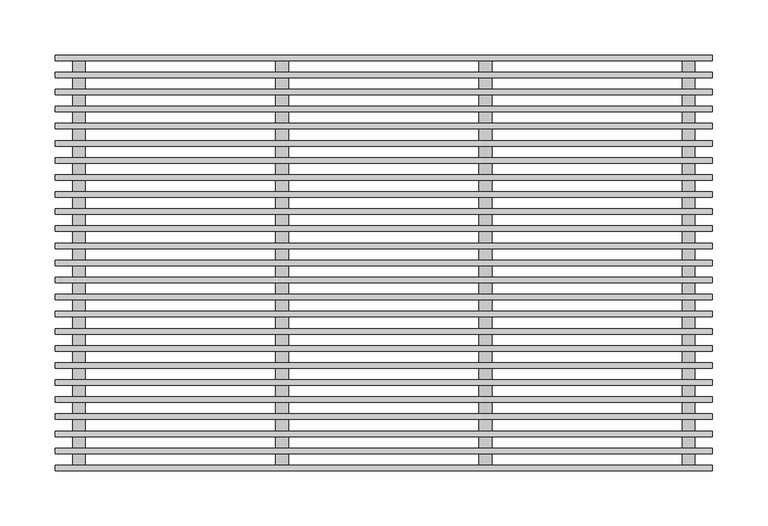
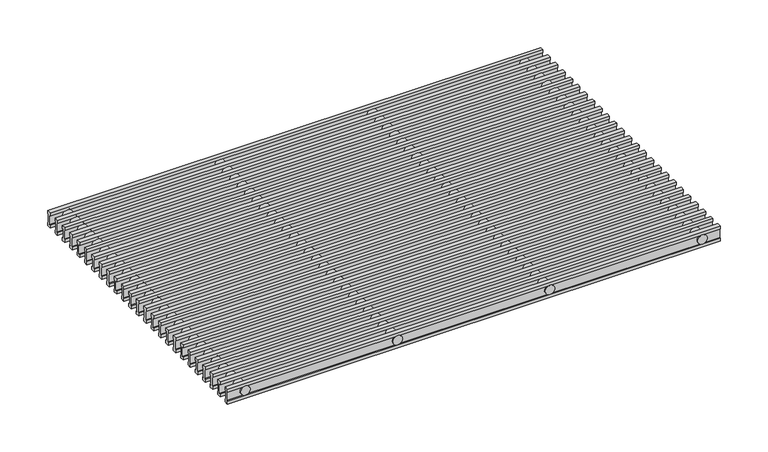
"""IFC4 building model written with IfcOpenShell, lengths in millimetres: proxy geometry, ♦ : РАП_Алюминиевая продольная/ Белый RAL 9016."""

from ifc_helpers import new_model, si_unit, point, frame, frame_2d, origin, place, context, project, spatial, polyline, circle_curve, trimmed, segment, composite_curve, outline, extrude, source, transform, mapped, element, save


def mechanical_equipment_6586b256(model_context):
    return source(origin(), model_context, "Body", "SweptSolid", [
        extrude(outline(polyline([(-168.275, 0.0), (-168.275, -3.86), (-169.525, -3.86), (-169.525, -15.44), (-168.275, -15.44), (-168.275, -19.3), (-173.275, -19.3), (-173.275, -15.44), (-172.025, -15.44), (-172.025, -3.86), (-173.275, -3.86), (-173.275, 0.0), (-168.275, 0.0)])), frame((1.2, 0.0, 0.0), z_axis=(1.0, 0.0, 0.0), x_axis=(0.0, 1.0, 0.0)), (0.0, 0.0, 1.0), 597.6),
        extrude(outline(polyline([(-152.75, 0.0), (-152.75, -3.86), (-154.0, -3.86), (-154.0, -15.44), (-152.75, -15.44), (-152.75, -19.3), (-157.75, -19.3), (-157.75, -15.44), (-156.5, -15.44), (-156.5, -3.86), (-157.75, -3.86), (-157.75, 0.0), (-152.75, 0.0)])), frame((1.2, 0.0, 0.0), z_axis=(1.0, 0.0, 0.0), x_axis=(0.0, 1.0, 0.0)), (0.0, 0.0, 1.0), 597.6),
        extrude(outline(polyline([(-137.225, 0.0), (-137.225, -3.86), (-138.475, -3.86), (-138.475, -15.44), (-137.225, -15.44), (-137.225, -19.3), (-142.225, -19.3), (-142.225, -15.44), (-140.975, -15.44), (-140.975, -3.86), (-142.225, -3.86), (-142.225, 0.0), (-137.225, 0.0)])), frame((1.2, 0.0, 0.0), z_axis=(1.0, 0.0, 0.0), x_axis=(0.0, 1.0, 0.0)), (0.0, 0.0, 1.0), 597.6),
        extrude(outline(polyline([(-121.7, 0.0), (-121.7, -3.86), (-122.95, -3.86), (-122.95, -15.44), (-121.7, -15.44), (-121.7, -19.3), (-126.7, -19.3), (-126.7, -15.44), (-125.45, -15.44), (-125.45, -3.86), (-126.7, -3.86), (-126.7, 0.0), (-121.7, 0.0)])), frame((1.2, 0.0, 0.0), z_axis=(1.0, 0.0, 0.0), x_axis=(0.0, 1.0, 0.0)), (0.0, 0.0, 1.0), 597.6),
        extrude(outline(polyline([(-106.175, 0.0), (-106.175, -3.86), (-107.425, -3.86), (-107.425, -15.44), (-106.175, -15.44), (-106.175, -19.3), (-111.175, -19.3), (-111.175, -15.44), (-109.925, -15.44), (-109.925, -3.86), (-111.175, -3.86), (-111.175, 0.0), (-106.175, 0.0)])), frame((1.2, 0.0, 0.0), z_axis=(1.0, 0.0, 0.0), x_axis=(0.0, 1.0, 0.0)), (0.0, 0.0, 1.0), 597.6),
        extrude(outline(polyline([(-90.65, 0.0), (-90.65, -3.86), (-91.9, -3.86), (-91.9, -15.44), (-90.65, -15.44), (-90.65, -19.3), (-95.65, -19.3), (-95.65, -15.44), (-94.4, -15.44), (-94.4, -3.86), (-95.65, -3.86), (-95.65, 0.0), (-90.65, 0.0)])), frame((1.2, 0.0, 0.0), z_axis=(1.0, 0.0, 0.0), x_axis=(0.0, 1.0, 0.0)), (0.0, 0.0, 1.0), 597.6),
        extrude(outline(polyline([(-75.125, 0.0), (-75.125, -3.86), (-76.375, -3.86), (-76.375, -15.44), (-75.125, -15.44), (-75.125, -19.3), (-80.125, -19.3), (-80.125, -15.44), (-78.875, -15.44), (-78.875, -3.86), (-80.125, -3.86), (-80.125, 0.0), (-75.125, 0.0)])), frame((1.2, 0.0, 0.0), z_axis=(1.0, 0.0, 0.0), x_axis=(0.0, 1.0, 0.0)), (0.0, 0.0, 1.0), 597.6),
        extrude(outline(polyline([(-59.6, 0.0), (-59.6, -3.86), (-60.85, -3.86), (-60.85, -15.44), (-59.6, -15.44), (-59.6, -19.3), (-64.6, -19.3), (-64.6, -15.44), (-63.35, -15.44), (-63.35, -3.86), (-64.6, -3.86), (-64.6, 0.0), (-59.6, 0.0)])), frame((1.2, 0.0, 0.0), z_axis=(1.0, 0.0, 0.0), x_axis=(0.0, 1.0, 0.0)), (0.0, 0.0, 1.0), 597.6),
        extrude(outline(polyline([(-44.075, 0.0), (-44.075, -3.86), (-45.325, -3.86), (-45.325, -15.44), (-44.075, -15.44), (-44.075, -19.3), (-49.075, -19.3), (-49.075, -15.44), (-47.825, -15.44), (-47.825, -3.86), (-49.075, -3.86), (-49.075, 0.0), (-44.075, 0.0)])), frame((1.2, 0.0, 0.0), z_axis=(1.0, 0.0, 0.0), x_axis=(0.0, 1.0, 0.0)), (0.0, 0.0, 1.0), 597.6),
        extrude(outline(polyline([(-28.55, 0.0), (-28.55, -3.86), (-29.8, -3.86), (-29.8, -15.44), (-28.55, -15.44), (-28.55, -19.3), (-33.55, -19.3), (-33.55, -15.44), (-32.3, -15.44), (-32.3, -3.86), (-33.55, -3.86), (-33.55, 0.0), (-28.55, 0.0)])), frame((1.2, 0.0, 0.0), z_axis=(1.0, 0.0, 0.0), x_axis=(0.0, 1.0, 0.0)), (0.0, 0.0, 1.0), 597.6),
        extrude(outline(polyline([(-13.025, 0.0), (-13.025, -3.86), (-14.275, -3.86), (-14.275, -15.44), (-13.025, -15.44), (-13.025, -19.3), (-18.025, -19.3), (-18.025, -15.44), (-16.775, -15.44), (-16.775, -3.86), (-18.025, -3.86), (-18.025, 0.0), (-13.025, 0.0)])), frame((1.2, 0.0, 0.0), z_axis=(1.0, 0.0, 0.0), x_axis=(0.0, 1.0, 0.0)), (0.0, 0.0, 1.0), 597.6),
        extrude(outline(polyline([(2.5, 0.0), (2.5, -3.86), (1.25, -3.86), (1.25, -15.44), (2.5, -15.44), (2.5, -19.3), (-2.5, -19.3), (-2.5, -15.44), (-1.25, -15.44), (-1.25, -3.86), (-2.5, -3.86), (-2.5, 0.0), (2.5, 0.0)])), frame((1.2, 0.0, 0.0), z_axis=(1.0, 0.0, 0.0), x_axis=(0.0, 1.0, 0.0)), (0.0, 0.0, 1.0), 597.6),
        extrude(outline(polyline([(18.025, 0.0), (18.025, -3.86), (16.775, -3.86), (16.775, -15.44), (18.025, -15.44), (18.025, -19.3), (13.025, -19.3), (13.025, -15.44), (14.275, -15.44), (14.275, -3.86), (13.025, -3.86), (13.025, 0.0), (18.025, 0.0)])), frame((1.2, 0.0, 0.0), z_axis=(1.0, 0.0, 0.0), x_axis=(0.0, 1.0, 0.0)), (0.0, 0.0, 1.0), 597.6),
        extrude(outline(polyline([(33.55, 0.0), (33.55, -3.86), (32.3, -3.86), (32.3, -15.44), (33.55, -15.44), (33.55, -19.3), (28.55, -19.3), (28.55, -15.44), (29.8, -15.44), (29.8, -3.86), (28.55, -3.86), (28.55, 0.0), (33.55, 0.0)])), frame((1.2, 0.0, 0.0), z_axis=(1.0, 0.0, 0.0), x_axis=(0.0, 1.0, 0.0)), (0.0, 0.0, 1.0), 597.6),
        extrude(outline(polyline([(49.075, 0.0), (49.075, -3.86), (47.825, -3.86), (47.825, -15.44), (49.075, -15.44), (49.075, -19.3), (44.075, -19.3), (44.075, -15.44), (45.325, -15.44), (45.325, -3.86), (44.075, -3.86), (44.075, 0.0), (49.075, 0.0)])), frame((1.2, 0.0, 0.0), z_axis=(1.0, 0.0, 0.0), x_axis=(0.0, 1.0, 0.0)), (0.0, 0.0, 1.0), 597.6),
        extrude(outline(polyline([(64.6, 0.0), (64.6, -3.86), (63.35, -3.86), (63.35, -15.44), (64.6, -15.44), (64.6, -19.3), (59.6, -19.3), (59.6, -15.44), (60.85, -15.44), (60.85, -3.86), (59.6, -3.86), (59.6, 0.0), (64.6, 0.0)])), frame((1.2, 0.0, 0.0), z_axis=(1.0, 0.0, 0.0), x_axis=(0.0, 1.0, 0.0)), (0.0, 0.0, 1.0), 597.6),
        extrude(outline(polyline([(80.125, 0.0), (80.125, -3.86), (78.875, -3.86), (78.875, -15.44), (80.125, -15.44), (80.125, -19.3), (75.125, -19.3), (75.125, -15.44), (76.375, -15.44), (76.375, -3.86), (75.125, -3.86), (75.125, 0.0), (80.125, 0.0)])), frame((1.2, 0.0, 0.0), z_axis=(1.0, 0.0, 0.0), x_axis=(0.0, 1.0, 0.0)), (0.0, 0.0, 1.0), 597.6),
        extrude(outline(composite_curve([segment(trimmed(circle_curve(frame_2d((-9.6, 392.3333333)), 5.8), [point((-9.6, 386.5333333))], [point((-9.6, 398.1333333))], False, "CARTESIAN"), True, "CONTINUOUS"), segment(trimmed(circle_curve(frame_2d((-9.6, 392.3333333)), 5.8), [point((-9.6, 398.1333333))], [point((-9.6, 386.5333333))], False, "CARTESIAN"), True, "CONTINUOUS")], self_intersect=False)), frame((0.0, -188.8, 0.0), z_axis=(0.0, 1.0, 0.0), x_axis=(0.0, 0.0, 1.0)), (0.0, 0.0, 1.0), 377.6),
        extrude(outline(composite_curve([segment(trimmed(circle_curve(frame_2d((-9.6, 207.6666667)), 5.8), [point((-9.6, 201.8666667))], [point((-9.6, 213.4666667))], False, "CARTESIAN"), True, "CONTINUOUS"), segment(trimmed(circle_curve(frame_2d((-9.6, 207.6666667)), 5.8), [point((-9.6, 213.4666667))], [point((-9.6, 201.8666667))], False, "CARTESIAN"), True, "CONTINUOUS")], self_intersect=False)), frame((0.0, -188.8, 0.0), z_axis=(0.0, 1.0, 0.0), x_axis=(0.0, 0.0, 1.0)), (0.0, 0.0, 1.0), 377.6),
        extrude(outline(composite_curve([segment(trimmed(circle_curve(frame_2d((-9.6, 577.0)), 5.8), [point((-9.6, 571.2))], [point((-9.6, 582.8))], False, "CARTESIAN"), True, "CONTINUOUS"), segment(trimmed(circle_curve(frame_2d((-9.6, 577.0)), 5.8), [point((-9.6, 582.8))], [point((-9.6, 571.2))], False, "CARTESIAN"), True, "CONTINUOUS")], self_intersect=False)), frame((0.0, -188.8, 0.0), z_axis=(0.0, 1.0, 0.0), x_axis=(0.0, 0.0, 1.0)), (0.0, 0.0, 1.0), 377.6),
        extrude(outline(composite_curve([segment(trimmed(circle_curve(frame_2d((-9.6, 23.0)), 5.8), [point((-9.6, 17.2))], [point((-9.6, 28.8))], False, "CARTESIAN"), True, "CONTINUOUS"), segment(trimmed(circle_curve(frame_2d((-9.6, 23.0)), 5.8), [point((-9.6, 28.8))], [point((-9.6, 17.2))], False, "CARTESIAN"), True, "CONTINUOUS")], self_intersect=False)), frame((0.0, -188.8, 0.0), z_axis=(0.0, 1.0, 0.0), x_axis=(0.0, 0.0, 1.0)), (0.0, 0.0, 1.0), 377.6),
        extrude(outline(polyline([(95.65, 0.0), (95.65, -3.86), (94.4, -3.86), (94.4, -15.44), (95.65, -15.44), (95.65, -19.3), (90.65, -19.3), (90.65, -15.44), (91.9, -15.44), (91.9, -3.86), (90.65, -3.86), (90.65, 0.0), (95.65, 0.0)])), frame((1.2, 0.0, 0.0), z_axis=(1.0, 0.0, 0.0), x_axis=(0.0, 1.0, 0.0)), (0.0, 0.0, 1.0), 597.6),
        extrude(outline(polyline([(111.175, 0.0), (111.175, -3.86), (109.925, -3.86), (109.925, -15.44), (111.175, -15.44), (111.175, -19.3), (106.175, -19.3), (106.175, -15.44), (107.425, -15.44), (107.425, -3.86), (106.175, -3.86), (106.175, 0.0), (111.175, 0.0)])), frame((1.2, 0.0, 0.0), z_axis=(1.0, 0.0, 0.0), x_axis=(0.0, 1.0, 0.0)), (0.0, 0.0, 1.0), 597.6),
        extrude(outline(polyline([(126.7, 0.0), (126.7, -3.86), (125.45, -3.86), (125.45, -15.44), (126.7, -15.44), (126.7, -19.3), (121.7, -19.3), (121.7, -15.44), (122.95, -15.44), (122.95, -3.86), (121.7, -3.86), (121.7, 0.0), (126.7, 0.0)])), frame((1.2, 0.0, 0.0), z_axis=(1.0, 0.0, 0.0), x_axis=(0.0, 1.0, 0.0)), (0.0, 0.0, 1.0), 597.6),
        extrude(outline(polyline([(142.225, 0.0), (142.225, -3.86), (140.975, -3.86), (140.975, -15.44), (142.225, -15.44), (142.225, -19.3), (137.225, -19.3), (137.225, -15.44), (138.475, -15.44), (138.475, -3.86), (137.225, -3.86), (137.225, 0.0), (142.225, 0.0)])), frame((1.2, 0.0, 0.0), z_axis=(1.0, 0.0, 0.0), x_axis=(0.0, 1.0, 0.0)), (0.0, 0.0, 1.0), 597.6),
        extrude(outline(polyline([(157.75, 0.0), (157.75, -3.86), (156.5, -3.86), (156.5, -15.44), (157.75, -15.44), (157.75, -19.3), (152.75, -19.3), (152.75, -15.44), (154.0, -15.44), (154.0, -3.86), (152.75, -3.86), (152.75, 0.0), (157.75, 0.0)])), frame((1.2, 0.0, 0.0), z_axis=(1.0, 0.0, 0.0), x_axis=(0.0, 1.0, 0.0)), (0.0, 0.0, 1.0), 597.6),
        extrude(outline(polyline([(173.275, 0.0), (173.275, -3.86), (172.025, -3.86), (172.025, -15.44), (173.275, -15.44), (173.275, -19.3), (168.275, -19.3), (168.275, -15.44), (169.525, -15.44), (169.525, -3.86), (168.275, -3.86), (168.275, 0.0), (173.275, 0.0)])), frame((1.2, 0.0, 0.0), z_axis=(1.0, 0.0, 0.0), x_axis=(0.0, 1.0, 0.0)), (0.0, 0.0, 1.0), 597.6),
        extrude(outline(polyline([(-183.8, 0.0), (-183.8, -3.86), (-185.05, -3.86), (-185.05, -15.44), (-183.8, -15.44), (-183.8, -19.3), (-188.8, -19.3), (-188.8, -15.44), (-187.55, -15.44), (-187.55, -3.86), (-188.8, -3.86), (-188.8, 0.0), (-183.8, 0.0)])), frame((1.2, 0.0, 0.0), z_axis=(1.0, 0.0, 0.0), x_axis=(0.0, 1.0, 0.0)), (0.0, 0.0, 1.0), 597.6),
        extrude(outline(polyline([(188.8, 0.0), (188.8, -3.86), (187.55, -3.86), (187.55, -15.44), (188.8, -15.44), (188.8, -19.3), (183.8, -19.3), (183.8, -15.44), (185.05, -15.44), (185.05, -3.86), (183.8, -3.86), (183.8, 0.0), (188.8, 0.0)])), frame((1.2, 0.0, 0.0), z_axis=(1.0, 0.0, 0.0), x_axis=(0.0, 1.0, 0.0)), (0.0, 0.0, 1.0), 597.6),
    ])


if __name__ == "__main__":
    model = new_model("IFC4")
    model_context = context("Model", 3, world=origin())
    ifc_project = project(units=[si_unit("LENGTHUNIT", "METRE", prefix="MILLI")], contexts=[model_context])
    site = spatial("IfcSite", under=ifc_project)
    building = spatial("IfcBuilding", under=site)
    placement = place(None, origin())
    mechanical_equipment_shape = mechanical_equipment_6586b256(model_context)
    element("IfcBuildingElementProxy", 1, Name="♦ : РАП_Алюминиевая продольная/ Белый RAL 9016", ObjectType="♦ : РАП_Алюминиевая продольная/ Белый RAL 9016", at=placement, inside=building, context=model_context, shape_type="MappedRepresentation", body=[
        mapped(mechanical_equipment_shape, transform((0.0, 0.0, 0.0), x_axis=(1.0, 0.0, 0.0), y_axis=(0.0, 1.0, 0.0), z_axis=(0.0, 0.0, 1.0))),
    ])
    save(model, "model.ifc")
